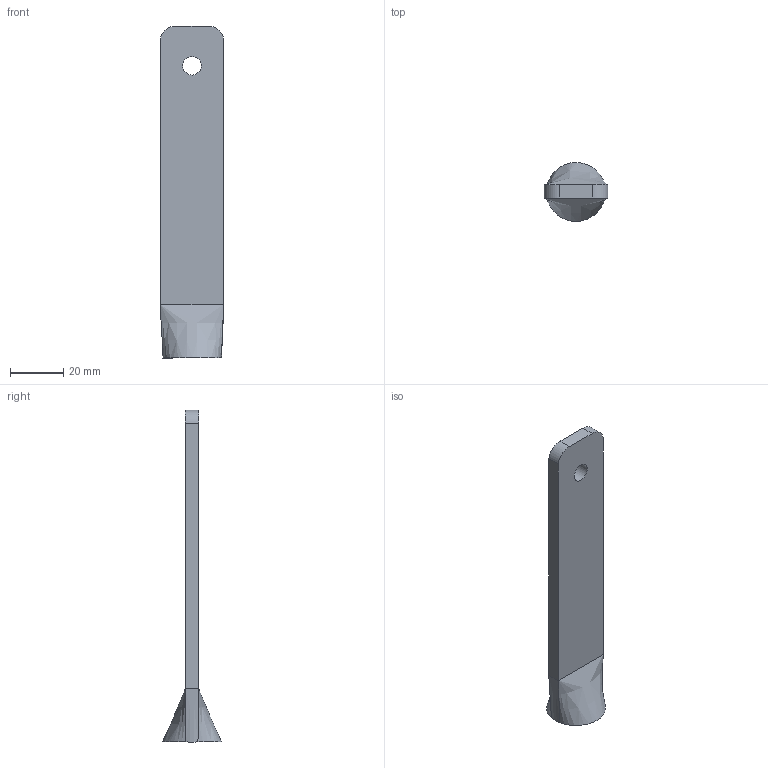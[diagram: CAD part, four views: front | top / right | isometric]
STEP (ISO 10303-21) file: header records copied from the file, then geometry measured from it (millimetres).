
FILE_DESCRIPTION(/* description */ (''),/* implementation_level */ '2;1');
FILE_NAME(/* name */ 'Link_One.step',/* time_stamp */ '2026-01-10T17:44:58+05:30',/* author */ (''),/* organization */ (''),/* preprocessor_version */ 'ST-DEVELOPER v20.1',/* originating_system */ 'Autodesk Translation Framework v14.21.0.0',/* authorisation */ '');
FILE_SCHEMA (('AUTOMOTIVE_DESIGN { 1 0 10303 214 3 1 1 }'));
Length unit declared in the file: millimetre
Products named in the file (2): (Unsaved); Base Plate
Assembly tree (1 placements, depth 2):
  (Unsaved)
    Base Plate
Bounding box: 24 x 22.17 x 125 mm (x, y, z)
Volume: 16937.4 mm3; surface area: 8136.1 mm2
Topology: 1 solids, 1 shells, 17 faces, 41 edges, 27 vertices
Faces by surface type: plane 7, cylinder 6, bspline 4
Full cylindrical faces by diameter (mm): 6.1 x1, 7 x1
Entity records: 959 total; most frequent: CARTESIAN_POINT 501, DIRECTION 83, ORIENTED_EDGE 82, EDGE_CURVE 41, AXIS2_PLACEMENT_3D 29, VERTEX_POINT 27, LINE 25, VECTOR 25
